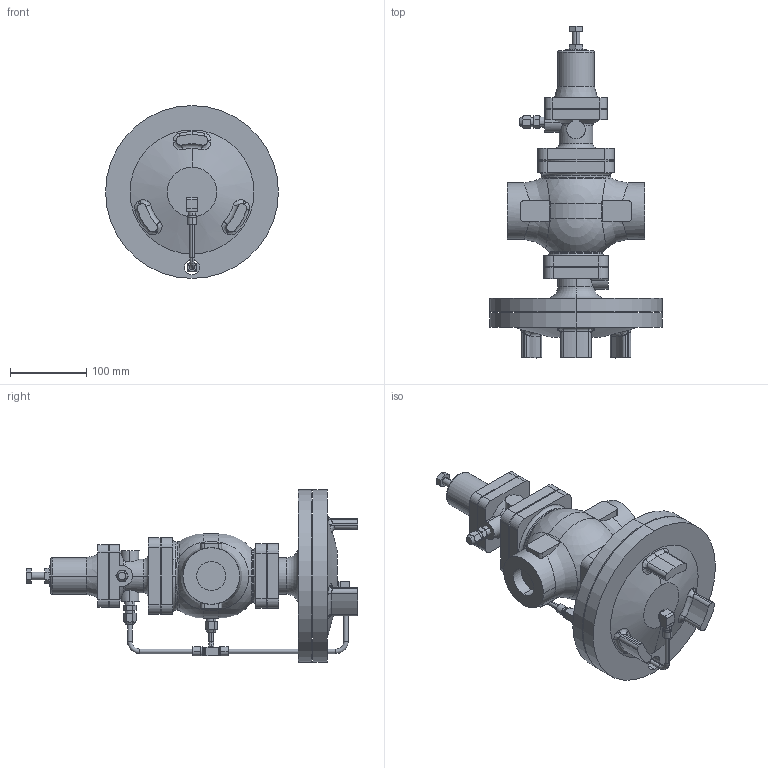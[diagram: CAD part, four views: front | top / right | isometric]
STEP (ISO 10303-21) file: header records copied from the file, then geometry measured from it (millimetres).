
FILE_DESCRIPTION (( 'STEP AP203' ), '1' );
FILE_NAME ('GPR-2000 JIS Rc 32A.STEP', '2025-12-05T02:27:33', ( '' ), ( '' ), 'SwSTEP 2.0', 'SolidWorks 2024', '' );
FILE_SCHEMA (( 'CONFIG_CONTROL_DESIGN' ));
Length unit declared in the file: millimetre
Products named in the file (8): GPR-2000 JIS Rc 32A; GPR-2000 Body Assy EN 32A; Elbow; GP-2000 Pipe A 32-40A; Pipe B 32-40A; Pipe C 32-40A; Tee; Joint
Assembly tree (9 placements, depth 2):
  GPR-2000 JIS Rc 32A
    GPR-2000 Body Assy EN 32A
    Tee
    Pipe B 32-40A
    Joint  x3
    GP-2000 Pipe A 32-40A
    Pipe C 32-40A
    Elbow
Bounding box: 226 x 434 x 226 mm (x, y, z)
Volume: 3891706.3 mm3; surface area: 343215.9 mm2
Topology: 9 solids, 9 shells, 447 faces, 1118 edges, 729 vertices
Faces by surface type: plane 193, cylinder 163, torus 32, bspline 28, cone 27, sphere 4
Entity records: 16478 total; most frequent: CARTESIAN_POINT 6161, DIRECTION 1998, ORIENTED_EDGE 1952, EDGE_CURVE 976, AXIS2_PLACEMENT_3D 778, VERTEX_POINT 629, EDGE_LOOP 447, LINE 442
